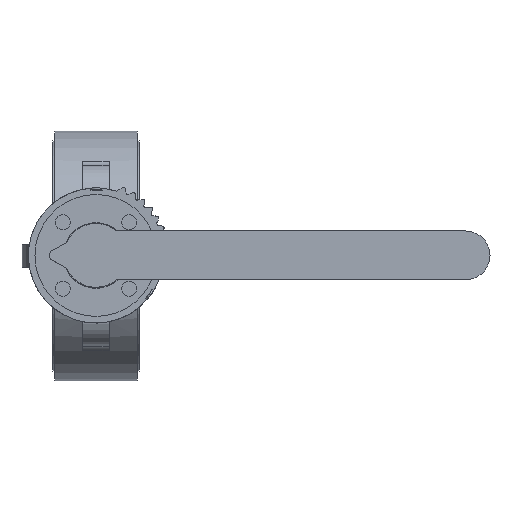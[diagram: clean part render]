
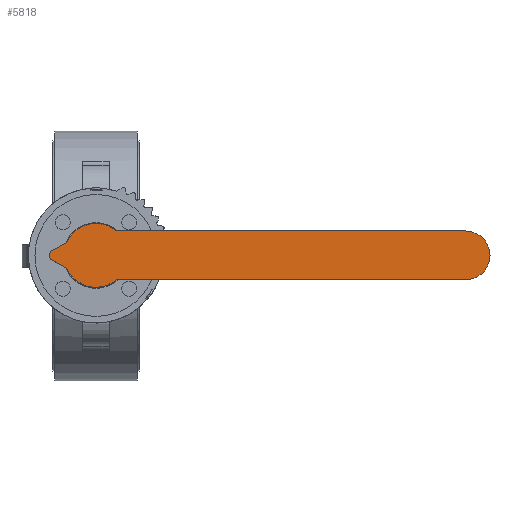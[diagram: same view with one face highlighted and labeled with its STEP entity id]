
A CAD part, top view. The second image highlights one B-rep face of the part: STEP entity #5818.
In plain terms, the highlighted planar face has unit normal (0, 0, 1).
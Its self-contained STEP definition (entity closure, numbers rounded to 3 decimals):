
#5818=ADVANCED_FACE('',(#11341),#11343,.T.);
#11341=FACE_BOUND('',#11342,.T.);
#11342=EDGE_LOOP('',(#15747,#15748,#15749,#15750,#15751,#15752,#15753,#15754,#15755,
#15756,#15757));
#11343=PLANE('',#11344);
#11344=AXIS2_PLACEMENT_3D('',#11345,#11346,#11347);
#11345=CARTESIAN_POINT('',(-1.545,-4.755,195.));
#11346=DIRECTION('',(0.,0.,1.));
#11347=DIRECTION('',(0.951,-0.309,0.));
#15747=ORIENTED_EDGE('',*,*,#18185,.T.);
#15748=ORIENTED_EDGE('',*,*,#18202,.T.);
#15749=ORIENTED_EDGE('',*,*,#18200,.T.);
#15750=ORIENTED_EDGE('',*,*,#18203,.T.);
#15751=ORIENTED_EDGE('',*,*,#18204,.T.);
#15752=ORIENTED_EDGE('',*,*,#18205,.T.);
#15753=ORIENTED_EDGE('',*,*,#18206,.T.);
#15754=ORIENTED_EDGE('',*,*,#18207,.T.);
#15755=ORIENTED_EDGE('',*,*,#18208,.T.);
#15756=ORIENTED_EDGE('',*,*,#18209,.T.);
#15757=ORIENTED_EDGE('',*,*,#18210,.T.);
#18185=EDGE_CURVE('',#21539,#21567,#21569,.T.);
#18200=EDGE_CURVE('',#21599,#21597,#21600,.T.);
#18202=EDGE_CURVE('',#21567,#21599,#21602,.T.);
#18203=EDGE_CURVE('',#21597,#21603,#21604,.T.);
#18204=EDGE_CURVE('',#21603,#21605,#21606,.T.);
#18205=EDGE_CURVE('',#21605,#21607,#21608,.T.);
#18206=EDGE_CURVE('',#21607,#21609,#21610,.T.);
#18207=EDGE_CURVE('',#21609,#21611,#21612,.T.);
#18208=EDGE_CURVE('',#21611,#21613,#21614,.T.);
#18209=EDGE_CURVE('',#21613,#21615,#21616,.T.);
#18210=EDGE_CURVE('',#21615,#21539,#21617,.T.);
#21539=VERTEX_POINT('',#30477);
#21567=VERTEX_POINT('',#30533);
#21569=LINE('',#30537,#30538);
#21597=VERTEX_POINT('',#30593);
#21599=VERTEX_POINT('',#30597);
#21600=LINE('',#30598,#30599);
#21602=CIRCLE('',#30604,13.);
#21603=VERTEX_POINT('',#30608);
#21604=CIRCLE('',#30609,17.);
#21605=VERTEX_POINT('',#30613);
#21606=CIRCLE('',#30614,17.);
#21607=VERTEX_POINT('',#30618);
#21608=CIRCLE('',#30619,3.);
#21609=VERTEX_POINT('',#30623);
#21610=LINE('',#30624,#30625);
#21611=VERTEX_POINT('',#30627);
#21612=CIRCLE('',#30628,3.);
#21613=VERTEX_POINT('',#30632);
#21614=LINE('',#30633,#30634);
#21615=VERTEX_POINT('',#30636);
#21616=CIRCLE('',#30637,3.);
#21617=CIRCLE('',#30641,17.);
#30477=CARTESIAN_POINT('',(10.954,-13.,195.));
#30533=CARTESIAN_POINT('',(197.,-13.,195.));
#30537=CARTESIAN_POINT('',(10.954,-13.,195.));
#30538=VECTOR('',#30539,1.);
#30539=DIRECTION('',(1.,0.,0.));
#30593=CARTESIAN_POINT('',(10.954,13.,195.));
#30597=CARTESIAN_POINT('',(197.,13.,195.));
#30598=CARTESIAN_POINT('',(197.,13.,195.));
#30599=VECTOR('',#30600,1.);
#30600=DIRECTION('',(-1.,0.,0.));
#30604=AXIS2_PLACEMENT_3D('',#30605,#30606,#30607);
#30605=CARTESIAN_POINT('',(197.,0.,195.));
#30606=DIRECTION('',(0.,0.,1.));
#30607=DIRECTION('',(0.,-1.,0.));
#30608=CARTESIAN_POINT('',(2.659,16.791,195.));
#30609=AXIS2_PLACEMENT_3D('',#30610,#30611,#30612);
#30610=CARTESIAN_POINT('',(0.,0.,195.));
#30611=DIRECTION('',(0.,0.,1.));
#30612=DIRECTION('',(0.644,0.765,0.));
#30613=CARTESIAN_POINT('',(-15.113,7.785,195.));
#30614=AXIS2_PLACEMENT_3D('',#30615,#30616,#30617);
#30615=CARTESIAN_POINT('',(0.,0.,195.));
#30616=DIRECTION('',(0.,0.,1.));
#30617=DIRECTION('',(0.156,0.988,0.));
#30618=CARTESIAN_POINT('',(-16.317,6.539,195.));
#30619=AXIS2_PLACEMENT_3D('',#30620,#30621,#30622);
#30620=CARTESIAN_POINT('',(-17.78,9.159,195.));
#30621=DIRECTION('',(0.,0.,-1.));
#30622=DIRECTION('',(0.889,-0.458,0.));
#30623=CARTESIAN_POINT('',(-23.338,2.619,195.));
#30624=CARTESIAN_POINT('',(-16.317,6.539,195.));
#30625=VECTOR('',#30626,1.);
#30626=DIRECTION('',(-0.873,-0.487,0.));
#30627=CARTESIAN_POINT('',(-23.338,-2.619,195.));
#30628=AXIS2_PLACEMENT_3D('',#30629,#30630,#30631);
#30629=CARTESIAN_POINT('',(-21.876,0.,195.));
#30630=DIRECTION('',(0.,0.,1.));
#30631=DIRECTION('',(-0.487,0.873,0.));
#30632=CARTESIAN_POINT('',(-16.317,-6.539,195.));
#30633=CARTESIAN_POINT('',(-23.338,-2.619,195.));
#30634=VECTOR('',#30635,1.);
#30635=DIRECTION('',(0.873,-0.487,0.));
#30636=CARTESIAN_POINT('',(-15.113,-7.785,195.));
#30637=AXIS2_PLACEMENT_3D('',#30638,#30639,#30640);
#30638=CARTESIAN_POINT('',(-17.78,-9.159,195.));
#30639=DIRECTION('',(0.,0.,-1.));
#30640=DIRECTION('',(0.487,0.873,0.));
#30641=AXIS2_PLACEMENT_3D('',#30642,#30643,#30644);
#30642=CARTESIAN_POINT('',(0.,0.,195.));
#30643=DIRECTION('',(0.,0.,1.));
#30644=DIRECTION('',(-0.889,-0.458,0.));
